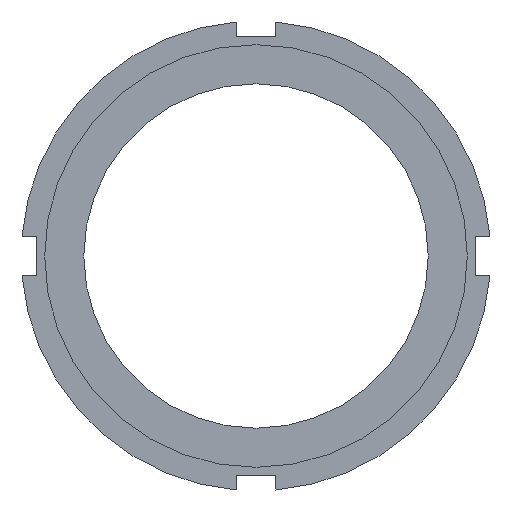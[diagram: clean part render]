
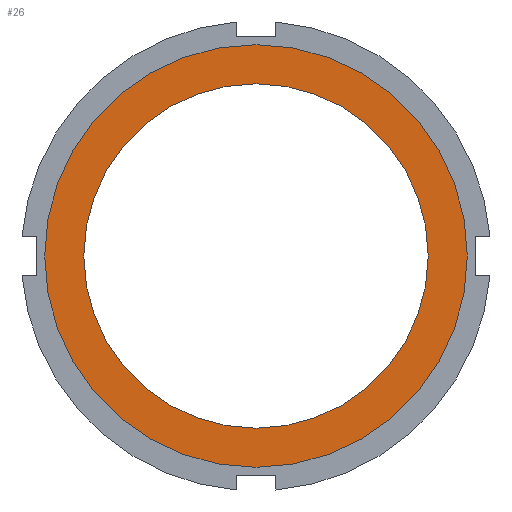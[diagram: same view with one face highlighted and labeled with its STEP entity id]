
A CAD part, left-side view. The second image highlights one B-rep face of the part: STEP entity #26.
In plain terms, the highlighted planar face has unit normal (-1, 0, 0).
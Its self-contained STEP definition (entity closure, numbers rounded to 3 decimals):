
#18 = EDGE_LOOP ( 'NONE', ( #650, #617 ) ) ;
#26 = ADVANCED_FACE ( 'NONE', ( #250, #251 ), #252, .F. ) ;
#28 = VERTEX_POINT ( 'NONE', #273 ) ;
#30 = ORIENTED_EDGE ( 'NONE', *, *, #50, .T. ) ;
#42 = EDGE_CURVE ( 'NONE', #675, #28, #401, .T. ) ;
#50 = EDGE_CURVE ( 'NONE', #28, #675, #422, .T. ) ;
#71 = CIRCLE ( 'NONE', #72, 44. ) ;
#72 = AXIS2_PLACEMENT_3D ( 'NONE', #73, #74, #75 ) ;
#73 = CARTESIAN_POINT ( 'NONE',  ( 0., 0., 0. ) ) ;
#74 = DIRECTION ( 'NONE',  ( -1., 0., 0. ) ) ;
#75 = DIRECTION ( 'NONE',  ( 0., 0., 1. ) ) ;
#152 = ORIENTED_EDGE ( 'NONE', *, *, #42, .T. ) ;
#170 = VERTEX_POINT ( 'NONE', #496 ) ;
#191 = CARTESIAN_POINT ( 'NONE',  ( 0., 0., -54. ) ) ;
#250 = FACE_BOUND ( 'NONE', #18, .T. ) ;
#251 = FACE_OUTER_BOUND ( 'NONE', #542, .T. ) ;
#252 = PLANE ( 'NONE',  #253 ) ;
#253 = AXIS2_PLACEMENT_3D ( 'NONE', #254, #255, #256 ) ;
#254 = CARTESIAN_POINT ( 'NONE',  ( 0., 44., 0. ) ) ;
#255 = DIRECTION ( 'NONE',  ( 1., 0., 0. ) ) ;
#256 = DIRECTION ( 'NONE',  ( 0., 0., -1. ) ) ;
#273 = CARTESIAN_POINT ( 'NONE',  ( 0., 0., 54. ) ) ;
#302 = CIRCLE ( 'NONE', #303, 44. ) ;
#303 = AXIS2_PLACEMENT_3D ( 'NONE', #304, #305, #306 ) ;
#304 = CARTESIAN_POINT ( 'NONE',  ( 0., 0., 0. ) ) ;
#305 = DIRECTION ( 'NONE',  ( -1., 0., 0. ) ) ;
#306 = DIRECTION ( 'NONE',  ( 0., 0., 1. ) ) ;
#384 = EDGE_CURVE ( 'NONE', #721, #170, #302, .T. ) ;
#401 = CIRCLE ( 'NONE', #403, 54. ) ;
#403 = AXIS2_PLACEMENT_3D ( 'NONE', #404, #405, #406 ) ;
#404 = CARTESIAN_POINT ( 'NONE',  ( 0., 0., 0. ) ) ;
#405 = DIRECTION ( 'NONE',  ( -1., 0., 0. ) ) ;
#406 = DIRECTION ( 'NONE',  ( 0., 0., 1. ) ) ;
#422 = CIRCLE ( 'NONE', #423, 54. ) ;
#423 = AXIS2_PLACEMENT_3D ( 'NONE', #424, #425, #426 ) ;
#424 = CARTESIAN_POINT ( 'NONE',  ( 0., 0., 0. ) ) ;
#425 = DIRECTION ( 'NONE',  ( -1., 0., 0. ) ) ;
#426 = DIRECTION ( 'NONE',  ( 0., 0., 1. ) ) ;
#446 = CARTESIAN_POINT ( 'NONE',  ( 0., 0., -44. ) ) ;
#490 = EDGE_CURVE ( 'NONE', #170, #721, #71, .T. ) ;
#496 = CARTESIAN_POINT ( 'NONE',  ( 0., 0., 44. ) ) ;
#542 = EDGE_LOOP ( 'NONE', ( #30, #152 ) ) ;
#617 = ORIENTED_EDGE ( 'NONE', *, *, #384, .F. ) ;
#650 = ORIENTED_EDGE ( 'NONE', *, *, #490, .F. ) ;
#675 = VERTEX_POINT ( 'NONE', #191 ) ;
#721 = VERTEX_POINT ( 'NONE', #446 ) ;
